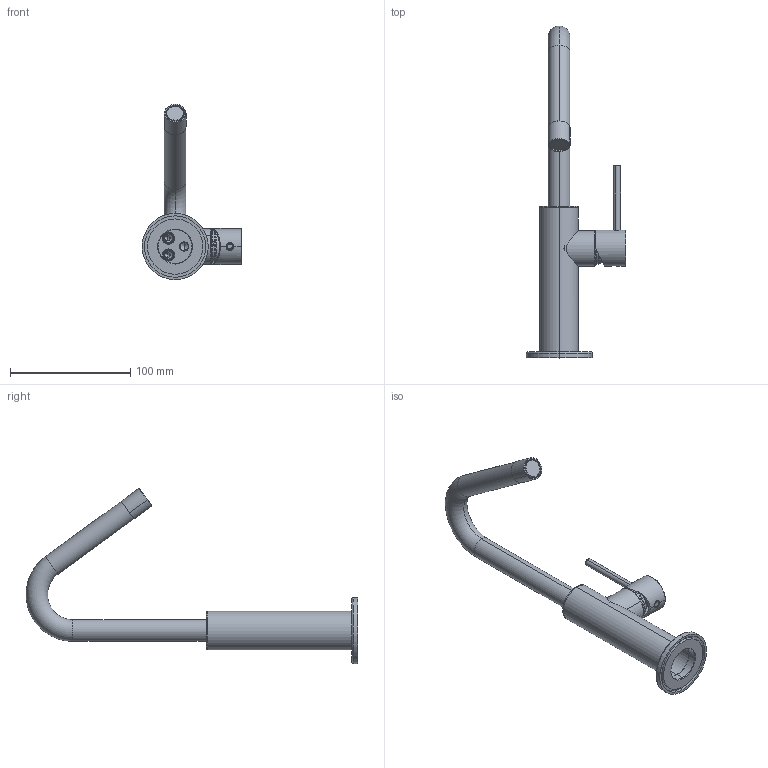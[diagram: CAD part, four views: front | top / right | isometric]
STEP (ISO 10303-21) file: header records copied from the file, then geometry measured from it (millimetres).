
FILE_DESCRIPTION (( 'STEP AP203' ), '1' );
FILE_NAME ('MME5.STEP', '2025-02-07T07:39:05', ( '' ), ( '' ), 'SwSTEP 2.0', 'SolidWorks 2024', '' );
FILE_SCHEMA (( 'CONFIG_CONTROL_DESIGN' ));
Length unit declared in the file: millimetre
Products named in the file (23): C24.2075.00.0; C24.0061.00.1; C47.00.0023.01; C47.00.0049.08; C12.00.0054; C12.00.0004; C11.14.0019; C19.11.0029.43; C24.0119.00.2; C24.0699.00.0; C24.0029.00.1; RC014NK; C11.14.0014; C13.00.0066.01; C24.0370.00.3; C21.0648.00.1; C23.0824.01; C10.00.0013; C24.0372.00.1; MME5; OR1052ACS; C24.0120.00.1; C21.0649.00.0
Assembly tree (24 placements, depth 3):
  MME5
    C11.14.0014
    C13.00.0066.01
    C47.00.0049.08
      OR1052ACS
      RC014NK
    C24.0061.00.1
    C19.11.0029.43
      C24.0370.00.3
      C24.2075.00.0
    C24.0029.00.1
    C24.0372.00.1
    C24.0119.00.2
    C24.0120.00.1
    C10.00.0013
    C23.0824.01
    C24.0699.00.0
    C21.0648.00.1
    C21.0649.00.0  x2
    C12.00.0054  x2
    C47.00.0023.01
    C11.14.0019
    C12.00.0004
Bounding box: 83.01 x 275.89 x 145.73 mm (x, y, z)
Volume: 98314.1 mm3; surface area: 94528.1 mm2
Topology: 21 solids, 31 shells, 1109 faces, 3012 edges, 1942 vertices
Faces by surface type: cylinder 418, plane 327, cone 200, bspline 86, torus 78
Entity records: 41525 total; most frequent: CARTESIAN_POINT 13059, ORIENTED_EDGE 5344, DIRECTION 5328, EDGE_CURVE 2902, AXIS2_PLACEMENT_3D 2110, VERTEX_POINT 1894, EDGE_LOOP 1178, LINE 1108
